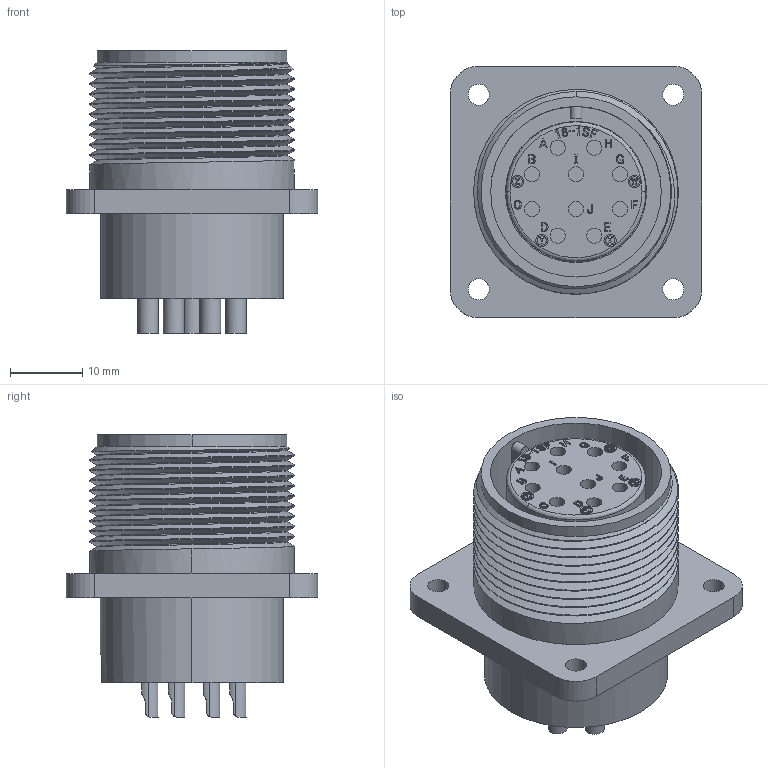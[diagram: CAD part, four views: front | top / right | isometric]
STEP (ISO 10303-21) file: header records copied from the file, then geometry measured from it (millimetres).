
FILE_DESCRIPTION (( 'STEP AP203' ), '1' );
FILE_NAME ('DMS3102A18-1S.STEP', '2017-05-16T00:37:55', ( '' ), ( '' ), 'SwSTEP 2.0', 'SolidWorks 2015', '' );
FILE_SCHEMA (( 'CONFIG_CONTROL_DESIGN' ));
Length unit declared in the file: millimetre
Products named in the file (1): DMS3102A18-1S
Bounding box: 34.92 x 34.92 x 39.17 mm (x, y, z)
Volume: 17631.6 mm3; surface area: 11475.6 mm2
Topology: 1 solids, 2 shells, 1085 faces, 2928 edges, 1939 vertices
Faces by surface type: plane 540, cylinder 276, bspline 267, cone 2
Entity records: 43416 total; most frequent: CARTESIAN_POINT 18238, ORIENTED_EDGE 5856, DIRECTION 4102, EDGE_CURVE 2928, VERTEX_POINT 1939, LINE 1778, VECTOR 1778, EDGE_LOOP 1187
